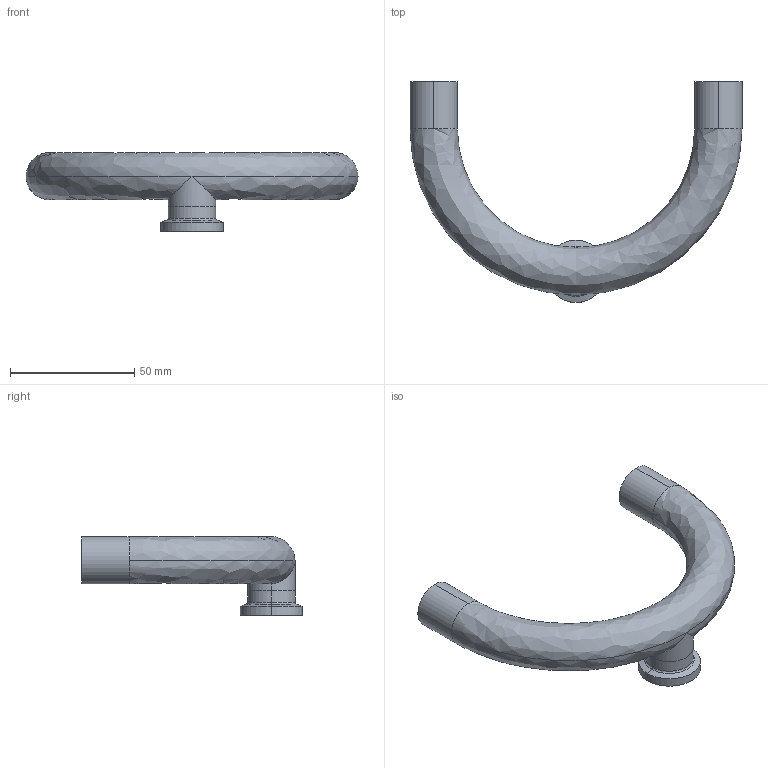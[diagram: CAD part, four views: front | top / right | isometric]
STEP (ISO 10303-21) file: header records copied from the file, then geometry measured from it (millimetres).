
FILE_DESCRIPTION (( 'STEP AP214' ), '1' );
FILE_NAME ('TE2USWWC6L.75x.75-...STEP', '2016-05-25T05:35:48', ( 'eran' ), ( '' ), 'SwSTEP 2.0', 'SolidWorks 2016', '' );
FILE_SCHEMA (( 'AUTOMOTIVE_DESIGN' ));
Length unit declared in the file: millimetre
Products named in the file (1): TE2USWWC6L.75x.75-..
Bounding box: 133.35 x 88.7 x 31.73 mm (x, y, z)
Volume: 21211.4 mm3; surface area: 25965.3 mm2
Topology: 2 solids, 2 shells, 44 faces, 102 edges, 62 vertices
Faces by surface type: cylinder 20, bspline 14, plane 6, cone 4
Entity records: 2021 total; most frequent: CARTESIAN_POINT 991, DIRECTION 218, ORIENTED_EDGE 204, EDGE_CURVE 102, AXIS2_PLACEMENT_3D 97, CIRCLE 66, VERTEX_POINT 62, EDGE_LOOP 50
